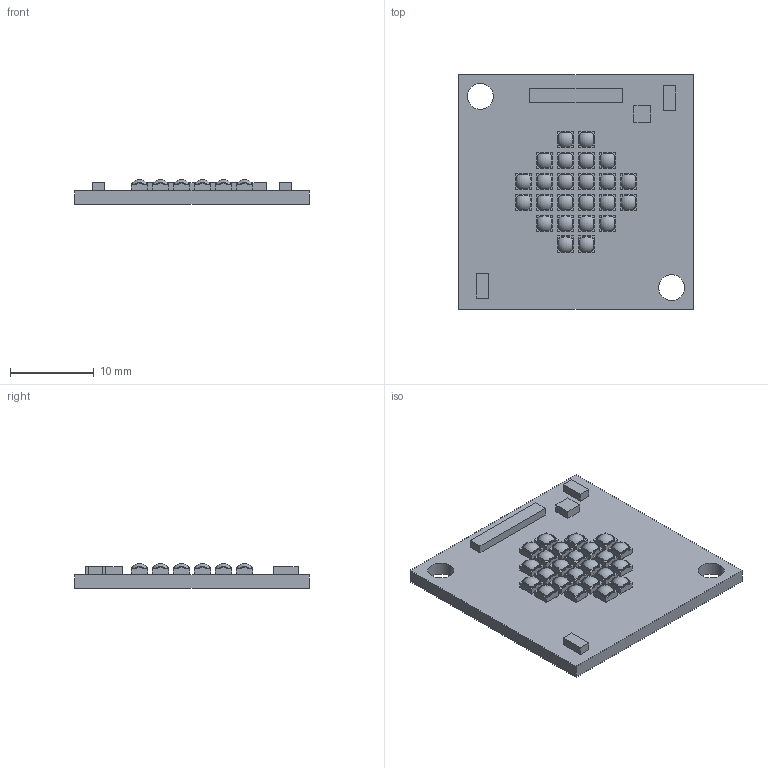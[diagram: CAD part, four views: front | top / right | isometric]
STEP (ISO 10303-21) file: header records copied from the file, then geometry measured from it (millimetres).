
FILE_DESCRIPTION((''),'2;1');
FILE_NAME('V28L13SA2_06072021_10-54-47_ASM','2021-06-07T',('SYSTEM'),(''),'PRO/ENGINEER BY PARAMETRIC TECHNOLOGY CORPORATION, 2009360','PRO/ENGINEER BY PARAMETRIC TECHNOLOGY CORPORATION, 2009360','');
FILE_SCHEMA(('AUTOMOTIVE_DESIGN_CC2 { 1 2 10303 214 -1 1 5 2 }'));
Products named in the file (6): V28L13SA2_06072021_10-54-47; 2020; FIDUCIAL_R0_5MM; ARKALUMEN_LOGO_11MM; C1919_EC; V28L13SA2_06072021_10-54-47_ASM
Assembly tree (29 placements, depth 2):
  V28L13SA2_06072021_10-54-47_ASM
    V28L13SA2_06072021_10-54-47
    2020  x24
    FIDUCIAL_R0_5MM
    ARKALUMEN_LOGO_11MM
    C1919_EC  x2
Bounding box: 28 x 28 x 2.94 mm (x, y, z)
Volume: 1355.6 mm3; surface area: 2233.7 mm2
Topology: 29 solids, 29 shells, 2026 faces, 5160 edges, 3264 vertices
Faces by surface type: plane 726, cylinder 700, bspline 384, torus 192, sphere 24
Entity records: 4197 total; most frequent: CARTESIAN_POINT 1127, DIRECTION 576, ORIENTED_EDGE 544, EDGE_CURVE 272, AXIS2_PLACEMENT_3D 214, VERTEX_POINT 174, VECTOR 148, LINE 148
